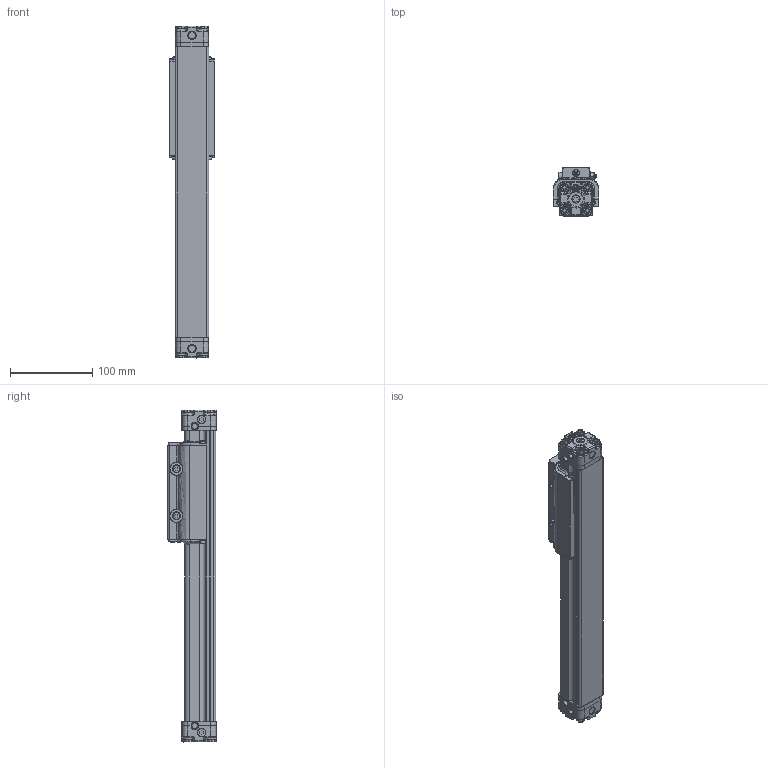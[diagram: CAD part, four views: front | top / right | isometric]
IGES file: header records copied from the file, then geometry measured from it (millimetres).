
Start section: SolidWorks IGES file using analytic representation for surfaces
Global section: file name: N:\Temp\BC210_NP_SK8.000_BC2-486625-1.igs; native system: SolidWorks 2024; preprocessor: SolidWorks 2024; author: MB; date: 250421.092211; units: inch
Bounding box: 55.47 x 58.55 x 403.5 mm (x, y, z)
Surface area: 148759.5 mm2 (no closed solid volume)
Topology: 0 solids, 0 shells, 1604 faces, 19138 edges, 18982 vertices
Faces by surface type: bspline 1286, revolution 318
